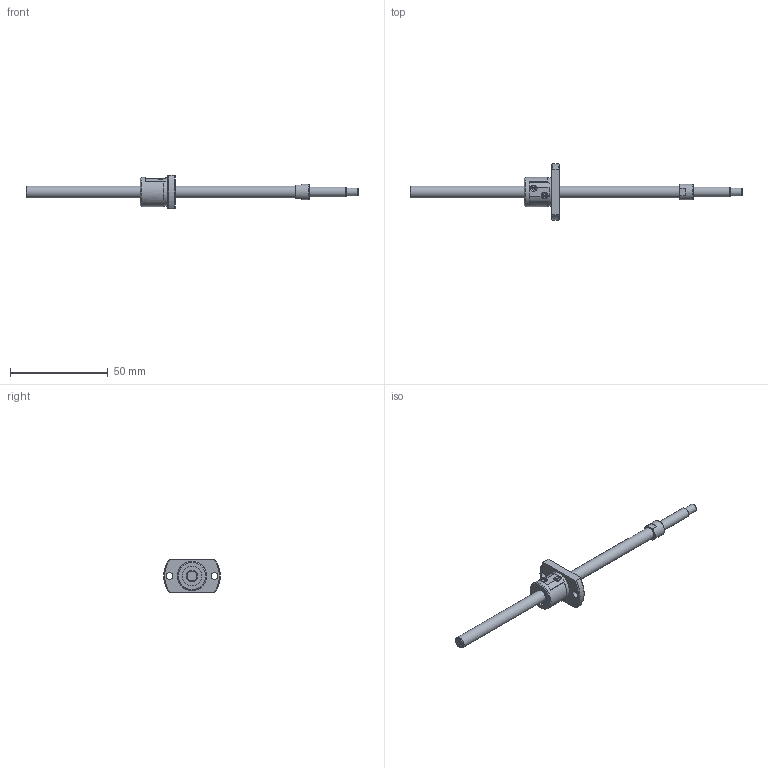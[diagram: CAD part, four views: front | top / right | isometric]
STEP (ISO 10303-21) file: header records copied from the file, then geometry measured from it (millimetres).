
FILE_DESCRIPTION(/* description */ ('STEP AP214'),/* implementation_level */ '2;1');
FILE_NAME(/* name */ 'SG0602.5-135R170C5A0X(58.5)',/* time_stamp */ '2026-07-20T20:17:34+02:00',/* author */ ('License CC BY-ND 4.0'),/* organization */ ('CADENAS'),/* preprocessor_version */ 'ST-DEVELOPER v20',/* originating_system */ 'PARTsolutions',/* authorisation */ ' ');
FILE_SCHEMA (('AUTOMOTIVE_DESIGN {1 0 10303 214 3 1 1}'));
Length unit declared in the file: millimetre
Products named in the file (3): SG0602.5-135R170C5A0X(58.5); SG0602.5-135R170C5A_shaft; SG0602.5 C5_nut
Assembly tree (2 placements, depth 2):
  SG0602.5-135R170C5A0X(58.5)
    SG0602.5-135R170C5A_shaft
    SG0602.5 C5_nut
Bounding box: 170 x 29 x 17 mm (x, y, z)
Volume: 8241.6 mm3; surface area: 5518.8 mm2
Topology: 2 solids, 2 shells, 71 faces, 174 edges, 115 vertices
Faces by surface type: plane 34, cylinder 23, cone 13, torus 1
Full cylindrical faces by diameter (mm): 3.4 x2, 4 x1, 5 x1, 6 x2, 8 x1, 10 x2, 14.6 x1, 15 x1
Entity records: 2027 total; most frequent: CARTESIAN_POINT 382, DIRECTION 340, ORIENTED_EDGE 286, EDGE_CURVE 143, AXIS2_PLACEMENT_3D 141, EDGE_LOOP 106, FACE_BOUND 106, VERTEX_POINT 105
